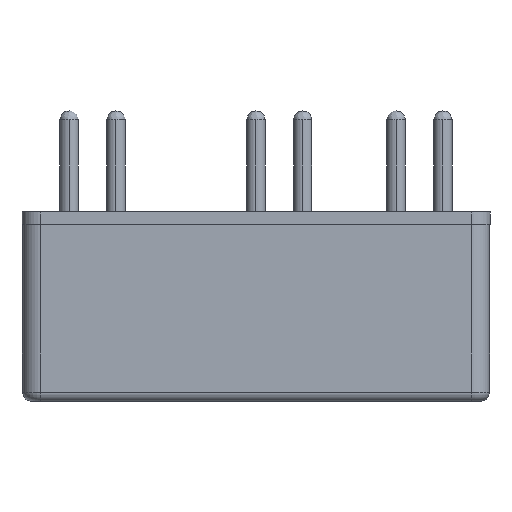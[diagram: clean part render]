
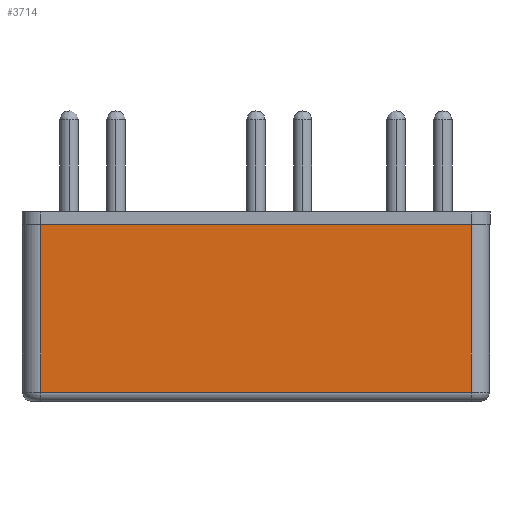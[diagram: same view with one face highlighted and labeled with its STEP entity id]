
A CAD part, left-side view. The second image highlights one B-rep face of the part: STEP entity #3714.
In plain terms, the highlighted planar face has unit normal (-1, 0, 0).
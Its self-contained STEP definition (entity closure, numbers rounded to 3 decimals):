
#228 = VECTOR ( 'NONE', #5223, 1000. ) ;
#257 = EDGE_LOOP ( 'NONE', ( #1810, #3928, #1581, #331 ) ) ;
#331 = ORIENTED_EDGE ( 'NONE', *, *, #2213, .T. ) ;
#373 = CARTESIAN_POINT ( 'NONE',  ( -25.45, 11.7, 0.5 ) ) ;
#1138 = DIRECTION ( 'NONE',  ( 0., 0., 1. ) ) ;
#1429 = LINE ( 'NONE', #2116, #228 ) ;
#1581 = ORIENTED_EDGE ( 'NONE', *, *, #4888, .T. ) ;
#1621 = VECTOR ( 'NONE', #2211, 1000. ) ;
#1702 = VECTOR ( 'NONE', #2488, 1000. ) ;
#1810 = ORIENTED_EDGE ( 'NONE', *, *, #4294, .T. ) ;
#1929 = DIRECTION ( 'NONE',  ( -1., 0., 0. ) ) ;
#2116 = CARTESIAN_POINT ( 'NONE',  ( -25.45, 11.7, 0. ) ) ;
#2211 = DIRECTION ( 'NONE',  ( 0., -1., 0. ) ) ;
#2213 = EDGE_CURVE ( 'NONE', #4724, #2290, #4065, .T. ) ;
#2290 = VERTEX_POINT ( 'NONE', #2547 ) ;
#2390 = VECTOR ( 'NONE', #1138, 1000. ) ;
#2409 = VERTEX_POINT ( 'NONE', #373 ) ;
#2438 = EDGE_CURVE ( 'NONE', #2409, #4832, #5035, .T. ) ;
#2461 = AXIS2_PLACEMENT_3D ( 'NONE', #4589, #1929, #5033 ) ;
#2488 = DIRECTION ( 'NONE',  ( 0., 1., 0. ) ) ;
#2547 = CARTESIAN_POINT ( 'NONE',  ( -25.45, 11.7, 9.6 ) ) ;
#2784 = FACE_OUTER_BOUND ( 'NONE', #257, .T. ) ;
#2818 = PLANE ( 'NONE',  #2461 ) ;
#2932 = CARTESIAN_POINT ( 'NONE',  ( -25.45, -11.7, 0. ) ) ;
#3714 = ADVANCED_FACE ( 'NONE', ( #2784 ), #2818, .T. ) ;
#3928 = ORIENTED_EDGE ( 'NONE', *, *, #2438, .T. ) ;
#4065 = LINE ( 'NONE', #5588, #1702 ) ;
#4266 = LINE ( 'NONE', #2932, #2390 ) ;
#4294 = EDGE_CURVE ( 'NONE', #2290, #2409, #1429, .T. ) ;
#4589 = CARTESIAN_POINT ( 'NONE',  ( -25.45, -12.7, 0. ) ) ;
#4662 = CARTESIAN_POINT ( 'NONE',  ( -25.45, -11.7, 0.5 ) ) ;
#4724 = VERTEX_POINT ( 'NONE', #5429 ) ;
#4832 = VERTEX_POINT ( 'NONE', #4662 ) ;
#4868 = CARTESIAN_POINT ( 'NONE',  ( -25.45, -12.7, 0.5 ) ) ;
#4888 = EDGE_CURVE ( 'NONE', #4832, #4724, #4266, .T. ) ;
#5033 = DIRECTION ( 'NONE',  ( 0., 0., 1. ) ) ;
#5035 = LINE ( 'NONE', #4868, #1621 ) ;
#5223 = DIRECTION ( 'NONE',  ( 0., 0., -1. ) ) ;
#5429 = CARTESIAN_POINT ( 'NONE',  ( -25.45, -11.7, 9.6 ) ) ;
#5588 = CARTESIAN_POINT ( 'NONE',  ( -25.45, 0., 9.6 ) ) ;
